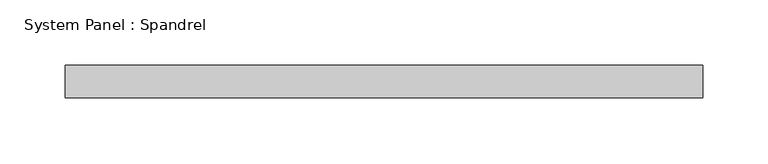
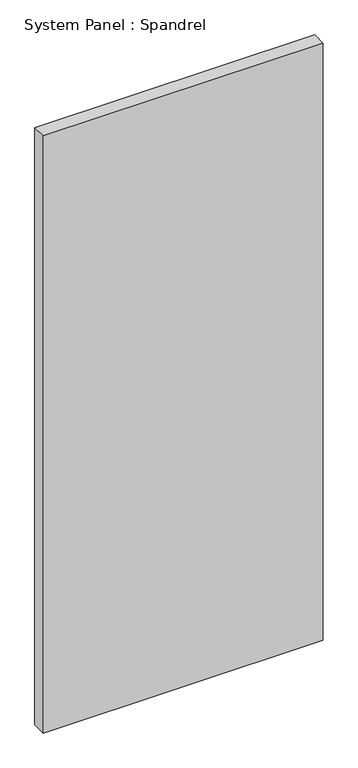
"""IFC4 building model written with IfcOpenShell, lengths in millimetres: plate geometry, System Panel : Spandrel."""

from ifc_helpers import new_model, si_unit, origin, origin_with_axes, place, context, project, spatial, polyline, outline, extrude, source, transform, mapped, element, save


def system_panel_spandrel_78a64b1d(model_context):
    return source(origin(), model_context, "Body", "SweptSolid", [
        extrude(outline(polyline([(243.9999997, -25.0), (-243.9999997, -25.0), (-243.9999997, 0.0), (243.9999997, 0.0), (243.9999997, -25.0)])), origin_with_axes(), (0.0, 0.0, 1.0), 1100.0),
    ])


if __name__ == "__main__":
    model = new_model("IFC4")
    model_context = context("Model", 3, world=origin())
    ifc_project = project(units=[si_unit("LENGTHUNIT", "METRE", prefix="MILLI")], contexts=[model_context])
    site = spatial("IfcSite", under=ifc_project)
    building = spatial("IfcBuilding", under=site)
    placement = place(None, origin())
    system_panel_spandrel_shape = system_panel_spandrel_78a64b1d(model_context)
    element("IfcPlate", 1, ObjectType="System Panel : Spandrel", at=placement, inside=building, context=model_context, shape_type="MappedRepresentation", body=[
        mapped(system_panel_spandrel_shape, transform((0.0, 0.0, 0.0), x_axis=(1.0, 0.0, 0.0), y_axis=(0.0, 1.0, 0.0), z_axis=(0.0, 0.0, 1.0))),
    ])
    save(model, "model.ifc")
